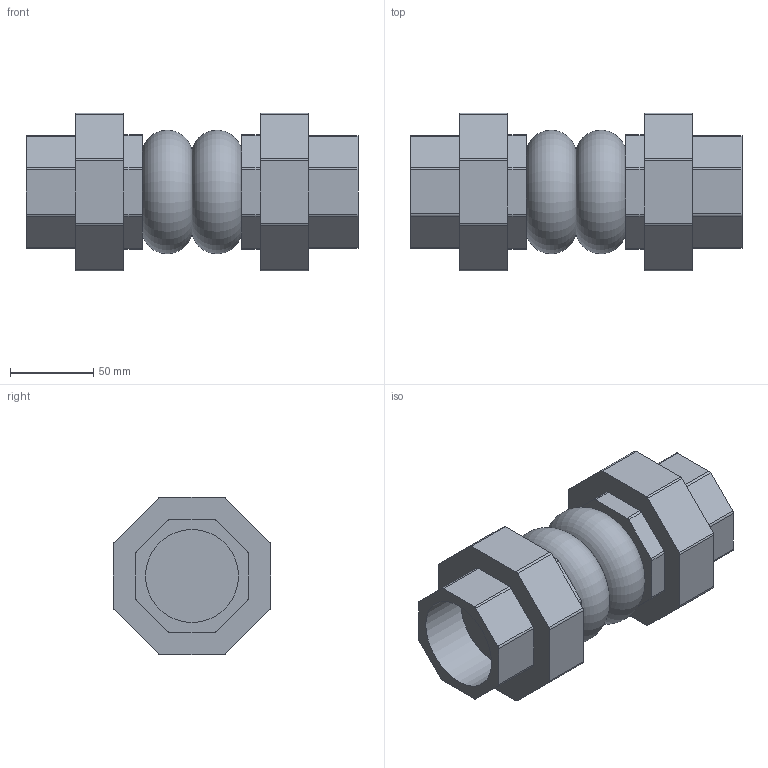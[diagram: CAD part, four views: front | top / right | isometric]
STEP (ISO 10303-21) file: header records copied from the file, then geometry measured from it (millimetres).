
FILE_DESCRIPTION(('STEP AP203'), '1');
FILE_NAME('3D_505-050-16', '', ('UNSPECIFIED'), ('UNSPECIFIED'), 'C3D Converter', 'C3D Toolkit', '');
FILE_SCHEMA(('CONFIG_CONTROL_DESIGN'));
Length unit declared in the file: millimetre
Bounding box: 200 x 95 x 95 mm (x, y, z)
Volume: 823571.8 mm3; surface area: 90512.3 mm2
Topology: 1 solids, 1 shells, 110 faces, 302 edges, 202 vertices
Faces by surface type: plane 58, cylinder 50, torus 2
Full cylindrical faces by diameter (mm): 56 x2
Entity records: 4423 total; most frequent: DIRECTION 626, CARTESIAN_POINT 611, ORIENTED_EDGE 596, EDGE_CURVE 298, AXIS2_PLACEMENT_3D 217, VERTEX_POINT 202, LINE 192, VECTOR 192
